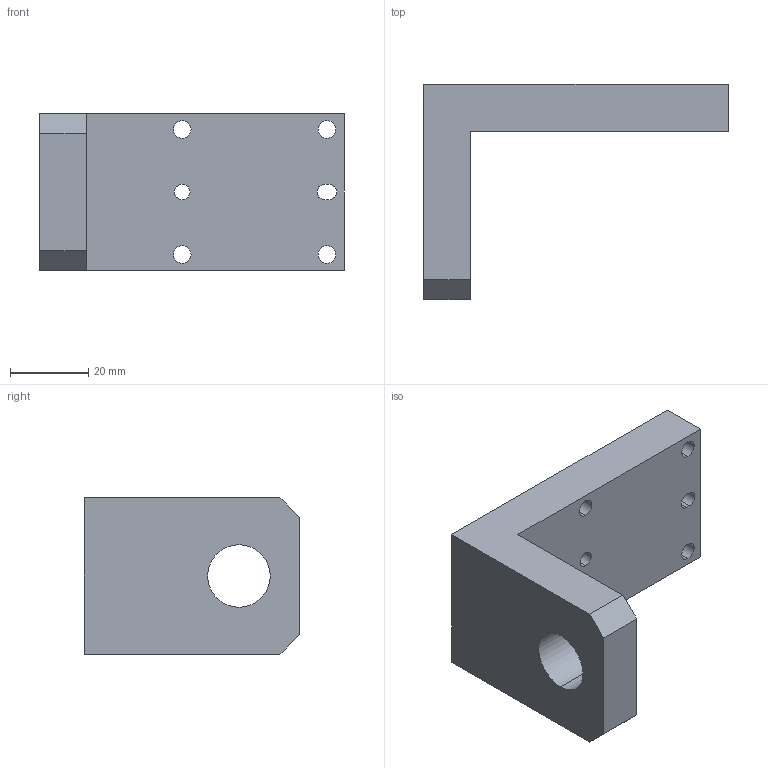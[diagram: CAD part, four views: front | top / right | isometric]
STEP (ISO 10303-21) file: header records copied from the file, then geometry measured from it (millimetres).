
FILE_DESCRIPTION (( 'STEP AP214' ), '1' );
FILE_NAME ('カムフォロア固定金具.STEP', '2024-06-04T02:47:43', ( '' ), ( '' ), 'SwSTEP 2.0', 'SolidWorks 2023', '' );
FILE_SCHEMA (( 'AUTOMOTIVE_DESIGN' ));
Length unit declared in the file: millimetre
Products named in the file (1): カムフォロア固定金具
Bounding box: 78 x 55 x 40 mm (x, y, z)
Volume: 54254.3 mm3; surface area: 14443.4 mm2
Topology: 1 solids, 1 shells, 26 faces, 72 edges, 48 vertices
Faces by surface type: cylinder 14, plane 12
Entity records: 895 total; most frequent: DIRECTION 154, CARTESIAN_POINT 147, ORIENTED_EDGE 144, EDGE_CURVE 72, AXIS2_PLACEMENT_3D 55, VERTEX_POINT 48, LINE 44, VECTOR 44
